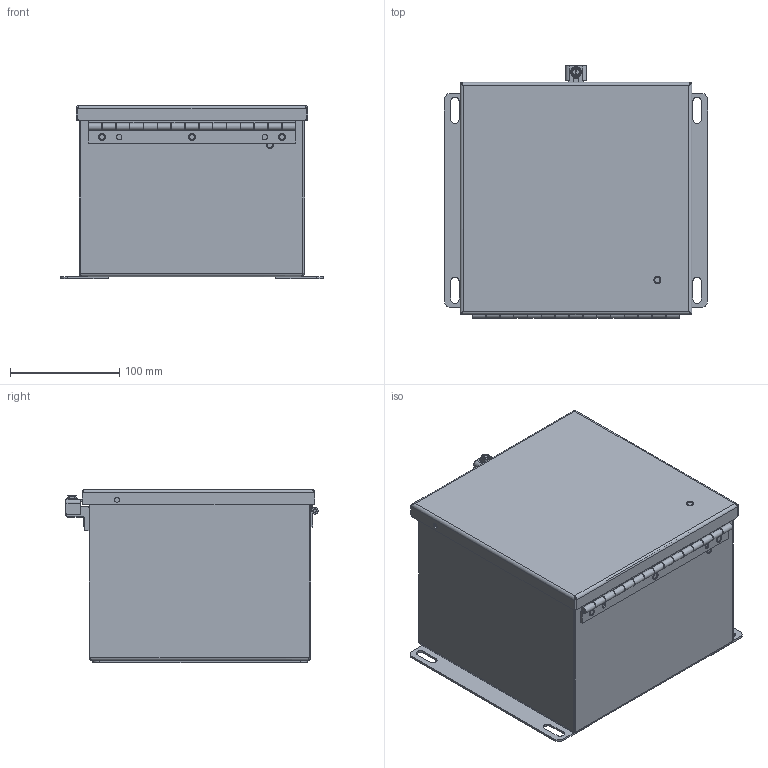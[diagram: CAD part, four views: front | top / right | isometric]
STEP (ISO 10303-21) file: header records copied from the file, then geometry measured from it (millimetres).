
FILE_DESCRIPTION((''),'2;1');
FILE_NAME('MODEL-330_ASM','2021-06-04T13:49:05',('JoshI'),('SAGINAW CONTROL & ENGINEERING'),'CREO PARAMETRIC BY PTC INC, 2017260','CREO PARAMETRIC BY PTC INC, 2017260','');
FILE_SCHEMA(('AUTOMOTIVE_DESIGN { 1 0 10303 214 1 1 1 1 }'));
Length unit declared in the file: inch
Products named in the file (22): MODEL-330-BDY; MODEL-330-DR; 100063; 100009; 125826-BASE; 125826-PEM-STUD; 125826-CLAMP; 125826-BOLT; 125826_ASM; 100897; 102162; 122255; MODEL-330-HNG-PN; MODEL-330-HNG-BX; MODEL-330-HNG-DR; 100062; MODEL-330-HNG_ASM; MODEL-330-GSKT; CH-ELJ_SUBPANEL; 102479; CH-ELJ_SUBPANEL-SUBASSEMBLY_ASM; MODEL-330_ASM
Assembly tree (34 placements, depth 3):
  MODEL-330_ASM
    MODEL-330-BDY
    MODEL-330-DR
    100063  x2
    100009  x4
    125826_ASM
      125826-BASE
      125826-PEM-STUD
      125826-CLAMP
      125826-BOLT
    100897  x4
    102162  x2
    122255
    MODEL-330-HNG_ASM
      MODEL-330-HNG-PN
      MODEL-330-HNG-BX
      MODEL-330-HNG-DR
      100062  x3
    MODEL-330-GSKT
    CH-ELJ_SUBPANEL-SUBASSEMBLY_ASM
      CH-ELJ_SUBPANEL
      102479  x4
Bounding box: 241.3 x 231.25 x 159.13 mm (x, y, z)
Volume: 486209.5 mm3; surface area: 601919.2 mm2
Topology: 30 solids, 30 shells, 1378 faces, 3363 edges, 1990 vertices
Faces by surface type: plane 609, cylinder 428, bspline 173, torus 80, cone 44, sphere 44
Entity records: 54195 total; most frequent: CARTESIAN_POINT 18449, ORIENTED_EDGE 4862, DIRECTION 4739, PRESENTATION_STYLE_ASSIGNMENT 2448, STYLED_ITEM 2448, CURVE_STYLE 2431, EDGE_CURVE 2431, AXIS2_PLACEMENT_3D 1658
